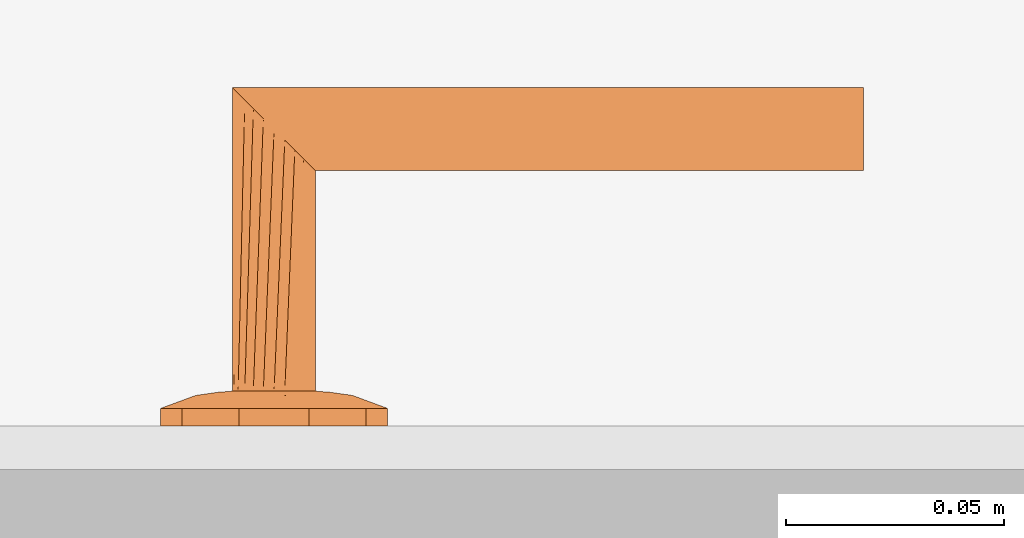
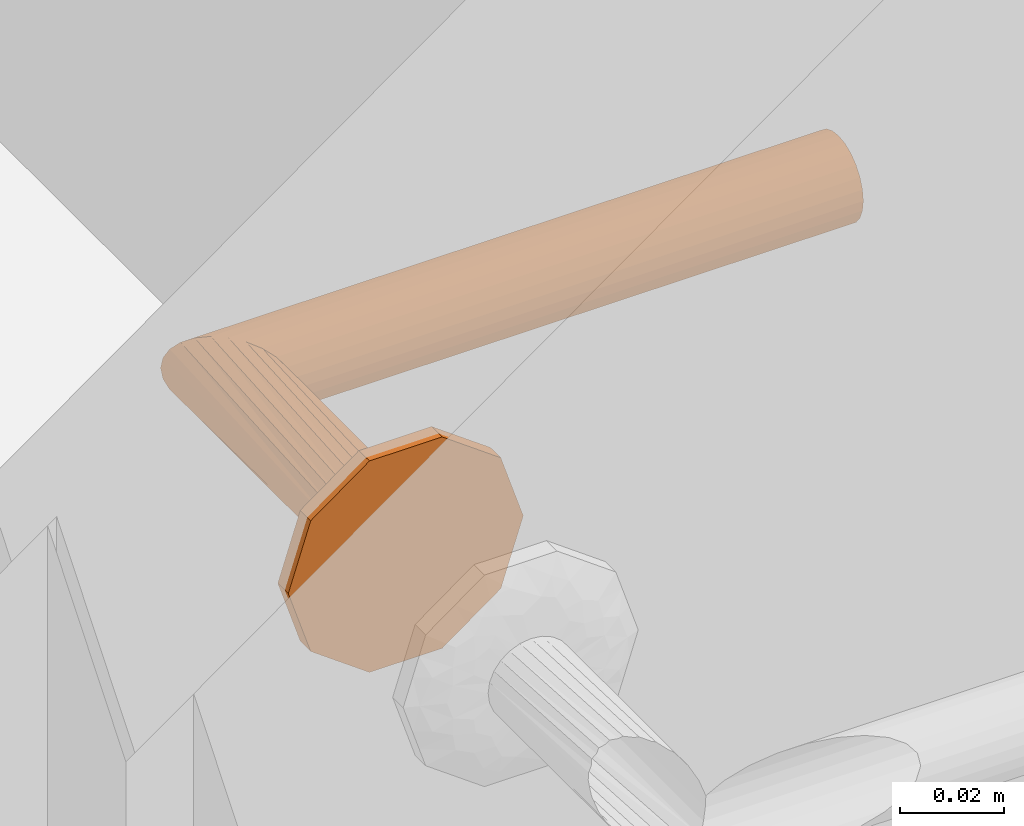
# One storey, part 55 of 68: 1 proxy.
"""IFC2X3 building model written with IfcOpenShell, lengths in millimetres."""

from ifc_helpers import new_model, entity, si_unit, converted_unit, direction, frame, origin, place, context, subcontext, project, spatial, faceted_brep, source, transform, mapped, material, type_object, type_shapes, element, save


model = new_model("IFC2X3")

# Units and contexts
model_context = context("Model", 3, precision=0.01, world=origin(), true_north=direction((6.123233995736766e-17, 1.0)))
plan_context = context("Plan", 3, precision=0.01, world=origin(), true_north=direction((6.123233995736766e-17, 1.0)))
body_context = subcontext(model_context, "Body", "Model", "MODEL_VIEW")
ifc_project = project(units=[si_unit("LENGTHUNIT", "METRE", prefix="MILLI"), converted_unit("PLANEANGLEUNIT", "DEGREE", entity("IfcPlaneAngleMeasure", 0.017453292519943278), si_unit("PLANEANGLEUNIT", "RADIAN"), dimensions=[0, 0, 0, 0, 0, 0, 0]), si_unit("AREAUNIT", "SQUARE_METRE")], contexts=[model_context, plan_context])

# Site, building, storey, space
site_placement = place(None, origin())
site = spatial("IfcSite", under=ifc_project, at=site_placement, Name="Default", CompositionType="ELEMENT")
building_placement = place(site_placement, origin())
building = spatial("IfcBuilding", under=site, at=building_placement, CompositionType="ELEMENT")
storey_placement = place(building_placement, frame((0.0, 0.0, 6295.0)))
storey = spatial("IfcBuildingStorey", under=building, at=storey_placement, Name="3K", CompositionType="ELEMENT", Elevation=6294.999999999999)
space_placement = place(storey_placement, origin())
space = spatial("IfcSpace", under=storey, at=space_placement, Name="3-6.3", CompositionType="ELEMENT", InteriorOrExteriorSpace="INTERNAL")

# Proxy
ifc_material = material(Name="<Unnamed>")
building_element_proxy_type = type_object("IfcBuildingElementProxyType", Name="Door-handle_Lever_ABLOY_INOXI_3-19ss-002_RT:Default", PredefinedType="NOTDEFINED", material=ifc_material)
shared_shape = source(origin(), body_context, "Body", "Brep", [
    faceted_brep([(0.0, 0.0, 0.0), (21.034441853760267, -15.282416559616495, 0.0), (14.534441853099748, -20.00494299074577, 0.0), (8.034441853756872, -24.72746942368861, 0.0), (0.0, -24.72746942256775, 0.0), (23.51722092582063, -7.6412082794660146, 0.0), (26.0, 0.0, 0.0), (-8.034441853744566, -24.727469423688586, 0.0), (-14.534441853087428, -20.00494299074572, 0.0), (-21.03444185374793, -15.282416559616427, 0.0), (-23.517220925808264, -7.641208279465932, 0.0), (-26.0, 0.0, 0.0), (-23.517220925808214, 7.641208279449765, 0.0), (23.517220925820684, 7.641208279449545, 0.0), (21.034441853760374, 15.282416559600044, 0.0), (14.53444185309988, 20.00494299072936, 0.0), (8.034441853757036, 24.72746942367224, 0.0), (-21.034441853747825, 15.282416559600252, 0.0), (-14.53444185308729, 20.004942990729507, 0.0), (-8.0344418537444, 24.72746942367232, 0.0), (0.0, 24.72746942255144, 0.0), (0.0, 0.0, 8.0), (4.7500000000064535, -8.227241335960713, 8.0), (5.937500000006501, -6.170431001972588, 8.0), (7.125000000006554, -4.113620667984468, 8.0), (8.312500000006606, -2.0568103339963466, 8.0), (9.500000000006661, 0.0, 8.0), (8.312500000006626, 2.056810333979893, 8.0), (2.3750000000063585, -8.227241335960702, 8.0), (0.0, -8.227241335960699, 8.0), (-2.3749999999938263, -8.227241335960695, 8.0), (-4.749999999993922, -8.227241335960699, 8.0), (-5.937499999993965, -6.170431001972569, 8.0), (-7.124999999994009, -4.113620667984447, 8.0), (-8.312499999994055, -2.056810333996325, 8.0), (-9.499999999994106, 0.0, 8.0), (7.125000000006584, 4.113620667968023, 8.0), (5.937500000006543, 6.170431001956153, 8.0), (4.750000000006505, 8.227241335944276, 8.0), (2.3750000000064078, 8.22724133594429, 8.0), (-8.31249999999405, 2.0568103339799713, 8.0), (-7.12499999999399, 4.113620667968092, 8.0), (-5.9374999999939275, 6.170431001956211, 8.0), (-4.74999999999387, 8.227241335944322, 8.0), (0.0, 8.227241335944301, 8.0), (-2.374999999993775, 8.227241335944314, 8.0), (-22.488765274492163, -10.806469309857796, 4.030771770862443), (-16.663919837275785, -7.932665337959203, 6.877259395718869), (-20.643071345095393, -6.292822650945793, 5.929480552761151), (-12.50457926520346, -5.179566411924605, 7.774932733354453), (-16.764060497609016, -3.820257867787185, 7.1747985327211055), (-9.071726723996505, -10.311606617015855, 7.7520782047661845), (-11.963426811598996, -8.625290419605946, 7.618343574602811), (-11.979136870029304, -13.678312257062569, 6.945778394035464), (5.7585542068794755, -20.96753300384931, 5.871476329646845), (0.0, -24.72746942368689, 4.030771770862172), (8.03444185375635, -24.727469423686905, 4.030771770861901), (16.66391982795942, -7.932665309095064, 6.877259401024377), (22.488765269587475, -10.806469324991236, 4.03077177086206), (20.64307133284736, -6.29282258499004, 5.929480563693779), (14.534441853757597, -20.004942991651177, 4.030771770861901), (9.499431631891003, -18.64368355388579, 6.154325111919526), (-15.783149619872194, -11.991003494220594, 6.50080018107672), (-21.034441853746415, -15.282416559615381, 4.030771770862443), (-14.53444185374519, -20.00494299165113, 4.030771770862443), (-23.012042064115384, 0.0, 5.135401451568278), (-23.943088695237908, -6.330522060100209, 4.030771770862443), (11.96342678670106, -8.62529049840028, 7.618343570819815), (12.504579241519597, -5.179566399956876, 7.774932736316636), (16.764060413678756, -3.8202578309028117, 7.17479855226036), (15.783149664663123, -11.991003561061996, 6.50080015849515), (17.985351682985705, 0.0, 6.993737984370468), (23.012042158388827, 0.0, 5.135401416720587), (8.661516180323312, -10.478936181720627, 7.768126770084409), (-8.03444185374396, -24.727469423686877, 4.030771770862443), (-3.3573143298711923, -21.197247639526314, 5.971427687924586), (-9.941915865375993, -17.061976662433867, 6.522757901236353), (-5.973257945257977, -16.430139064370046, 7.110979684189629), (-7.711266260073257, -12.760344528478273, 7.594456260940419), (11.979136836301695, -13.678312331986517, 6.945778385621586), (7.511307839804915, -13.358932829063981, 7.529187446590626), (5.953298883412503, -16.50608604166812, 7.096344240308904), (-1.5654593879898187, -15.307443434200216, 7.519134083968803), (-7.784980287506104, -20.476295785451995, 5.812837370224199), (2.8135289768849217, -17.76392260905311, 6.993737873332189), (-17.98535168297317, 0.0, 6.993737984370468), (-26.0, 0.0, 4.030771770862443), (-23.51722092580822, -7.641208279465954, 4.030771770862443), (23.943088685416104, -6.33052209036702, 4.030771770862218), (24.308823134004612, -5.204907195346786, 4.030771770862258), (26.0, 0.0, 4.030771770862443), (21.03444185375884, -15.282416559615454, 4.030771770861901), (22.617646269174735, -10.40981439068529, 4.030771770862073), (22.488765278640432, 10.806469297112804, 4.030771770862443), (16.66391984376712, 7.932665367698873, 6.877259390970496), (20.643071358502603, 6.292822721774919, 5.929480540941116), (12.504579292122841, 5.179566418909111, 7.774932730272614), (16.764060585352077, 3.8202579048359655, 7.174798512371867), (9.07172672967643, 10.31160659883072, 7.752078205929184), (11.963426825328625, 8.62529034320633, 7.618343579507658), (11.979136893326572, 13.67831220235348, 6.9457784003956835), (-5.758554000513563, 20.96753314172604, 5.8714763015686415), (0.0, 24.72746942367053, 4.030771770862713), (-8.03444185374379, 24.72746942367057, 4.030771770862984), (-16.663919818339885, 7.932665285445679, 6.877259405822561), (-22.48876526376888, 10.806469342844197, 4.030771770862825), (-20.643071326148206, 6.2928225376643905, 5.929480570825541), (-14.534441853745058, 20.004942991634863, 4.030771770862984), (-9.499431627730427, 18.643683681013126, 6.154325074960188), (15.783149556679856, 11.991003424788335, 6.5008002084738), (21.03444185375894, 15.282416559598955, 4.030771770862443), (14.534441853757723, 20.004942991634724, 4.030771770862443), (23.943088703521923, 6.330522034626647, 4.030771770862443), (-11.96342675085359, 8.625290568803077, 7.618343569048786), (-12.504579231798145, 5.179566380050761, 7.77493273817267), (-16.764060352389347, 3.820257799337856, 7.174798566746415), (-15.78314967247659, 11.991003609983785, 6.500800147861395), (-8.661516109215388, 10.478936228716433, 7.768126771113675), (8.034441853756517, 24.727469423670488, 4.030771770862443), (3.3573144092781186, 21.197247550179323, 5.971427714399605), (9.941915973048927, 17.061976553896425, 6.522757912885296), (5.9732581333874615, 16.430139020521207, 7.110979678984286), (7.711266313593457, 12.760344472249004, 7.5944562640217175), (-11.979136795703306, 13.678312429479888, 6.945778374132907), (-7.511307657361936, 13.358932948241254, 7.5291874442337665), (-5.9532988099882, 16.50608628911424, 7.096344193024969), (1.5654596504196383, 15.3074431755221, 7.519134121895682), (7.784980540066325, 20.476295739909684, 5.812837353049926), (-2.81352881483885, 17.76392263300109, 6.993737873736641), (23.51722092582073, 7.6412082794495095, 4.030771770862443), (-23.94308867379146, 6.330522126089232, 4.030771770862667), (-24.308823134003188, 5.20490719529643, 4.030771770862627), (-21.034441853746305, 15.282416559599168, 4.030771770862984), (-22.617646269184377, 10.409814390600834, 4.0307717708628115)], [[[0, 1, 2]], [[0, 2, 3]], [[0, 3, 4]], [[0, 5, 1]], [[0, 6, 5]], [[0, 4, 7]], [[0, 7, 8]], [[0, 8, 9]], [[0, 9, 10]], [[0, 10, 11]], [[0, 11, 12]], [[0, 13, 6]], [[0, 14, 13]], [[0, 15, 14]], [[0, 16, 15]], [[0, 12, 17]], [[0, 17, 18]], [[0, 18, 19]], [[0, 19, 20]], [[0, 20, 16]], [[21, 22, 23]], [[21, 23, 24]], [[21, 24, 25]], [[21, 25, 26]], [[21, 26, 27]], [[21, 28, 22]], [[21, 29, 28]], [[21, 30, 29]], [[21, 31, 30]], [[21, 32, 31]], [[21, 33, 32]], [[21, 34, 33]], [[21, 35, 34]], [[21, 27, 36]], [[21, 36, 37]], [[21, 37, 38]], [[21, 38, 39]], [[21, 40, 35]], [[21, 41, 40]], [[21, 42, 41]], [[21, 43, 42]], [[21, 39, 44]], [[21, 44, 45]], [[21, 45, 43]], [[46, 47, 48]], [[47, 49, 50]], [[49, 33, 34]], [[51, 52, 53]], [[49, 52, 33]], [[48, 47, 50]], [[54, 55, 56]], [[57, 58, 59]], [[56, 60, 61]], [[62, 63, 64]], [[65, 66, 48]], [[67, 57, 68]], [[68, 69, 25]], [[57, 67, 70]], [[69, 26, 25]], [[62, 53, 52]], [[71, 69, 72]], [[67, 23, 73]], [[74, 55, 75]], [[76, 77, 78]], [[79, 60, 70]], [[69, 59, 72]], [[80, 81, 61]], [[77, 30, 78]], [[82, 30, 77]], [[28, 80, 22]], [[77, 83, 75]], [[75, 82, 77]], [[55, 84, 75]], [[85, 50, 35]], [[24, 68, 25]], [[82, 84, 29]], [[84, 82, 75]], [[31, 78, 30]], [[82, 29, 30]], [[34, 35, 50]], [[52, 49, 47]], [[62, 52, 47]], [[34, 50, 49]], [[53, 78, 51]], [[32, 33, 52]], [[85, 65, 50]], [[66, 65, 86]], [[67, 68, 24]], [[77, 76, 83]], [[65, 48, 50]], [[63, 62, 46]], [[48, 66, 87, 46]], [[62, 47, 46]], [[69, 68, 57]], [[80, 73, 22]], [[70, 67, 79]], [[67, 24, 23]], [[72, 88, 89, 90]], [[69, 71, 26]], [[59, 69, 57]], [[61, 60, 79]], [[62, 64, 53]], [[91, 58, 70]], [[72, 59, 88]], [[57, 70, 58]], [[59, 58, 92]], [[80, 61, 79]], [[91, 70, 60]], [[61, 81, 54]], [[73, 80, 79]], [[28, 84, 81]], [[67, 73, 79]], [[29, 84, 28]], [[22, 73, 23]], [[51, 31, 32]], [[76, 78, 53]], [[53, 64, 76]], [[83, 64, 74]], [[64, 83, 76]], [[75, 83, 74]], [[31, 51, 78]], [[52, 51, 32]], [[28, 81, 80]], [[54, 81, 84]], [[55, 54, 84]], [[61, 54, 56]], [[93, 94, 95]], [[94, 96, 97]], [[96, 36, 27]], [[98, 99, 100]], [[96, 99, 36]], [[95, 94, 97]], [[101, 102, 103]], [[104, 105, 106]], [[103, 107, 108]], [[109, 110, 111]], [[72, 112, 95]], [[113, 104, 114]], [[114, 115, 40]], [[104, 113, 116]], [[115, 35, 40]], [[109, 100, 99]], [[85, 115, 65]], [[113, 42, 117]], [[118, 102, 119]], [[120, 121, 122]], [[123, 107, 116]], [[115, 106, 65]], [[124, 125, 108]], [[121, 39, 122]], [[126, 39, 121]], [[45, 124, 43]], [[121, 127, 119]], [[119, 126, 121]], [[102, 128, 119]], [[71, 97, 26]], [[41, 114, 40]], [[126, 128, 44]], [[128, 126, 119]], [[38, 122, 39]], [[126, 44, 39]], [[27, 26, 97]], [[99, 96, 94]], [[109, 99, 94]], [[27, 97, 96]], [[100, 122, 98]], [[37, 36, 99]], [[71, 72, 97]], [[112, 72, 90]], [[113, 114, 41]], [[121, 120, 127]], [[72, 95, 97]], [[110, 109, 93]], [[95, 112, 129, 93]], [[109, 94, 93]], [[115, 114, 104]], [[124, 117, 43]], [[116, 113, 123]], [[113, 41, 42]], [[65, 130, 131, 86]], [[115, 85, 35]], [[106, 115, 104]], [[108, 107, 123]], [[109, 111, 100]], [[132, 105, 116]], [[65, 106, 130]], [[104, 116, 105]], [[106, 105, 133]], [[124, 108, 123]], [[132, 116, 107]], [[108, 125, 101]], [[117, 124, 123]], [[45, 128, 125]], [[113, 117, 123]], [[44, 128, 45]], [[43, 117, 42]], [[98, 38, 37]], [[120, 122, 100]], [[100, 111, 120]], [[127, 111, 118]], [[111, 127, 120]], [[119, 127, 118]], [[38, 98, 122]], [[99, 98, 37]], [[45, 125, 124]], [[101, 125, 128]], [[102, 101, 128]], [[108, 101, 103]], [[7, 74, 64, 63, 9, 8]], [[10, 9, 63, 46, 87, 66, 86, 11]], [[6, 90, 89, 88, 92, 1, 5]], [[1, 58, 91]], [[74, 7, 4, 3, 56, 55]], [[60, 56, 3, 2, 1, 91]], [[1, 92, 58]], [[14, 110, 93, 129, 112, 90, 6, 13]], [[111, 110, 14, 15, 16, 118]], [[11, 86, 131, 130, 133, 17, 12]], [[17, 105, 132]], [[118, 16, 20, 19, 103, 102]], [[107, 103, 19, 18, 17, 132]], [[17, 133, 105]], [[59, 92, 88]], [[106, 133, 130]]]),
    faceted_brep([(4.7499999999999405, -8.22724133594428, 8.0), (2.4587809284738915, -9.176295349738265, 8.0), (0.0, -9.499999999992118, 8.0), (-2.4587809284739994, -9.176295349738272, 8.0), (-4.7500000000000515, -8.227241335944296, 8.0), (-6.717514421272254, -6.717514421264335, 8.0), (-8.227241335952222, -4.74999999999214, 8.0), (-9.176295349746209, -2.4587809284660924, 8.0), (-9.500000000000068, 0.0, 8.0), (-9.176295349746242, 2.458780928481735, 8.0), (-8.227241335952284, 4.750000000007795, 8.0), (-6.717514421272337, 6.717514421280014, 8.0), (-4.750000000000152, 8.227241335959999, 8.0), (-2.4587809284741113, 9.176295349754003, 8.0), (0.0, 9.500000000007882, 8.0), (2.4587809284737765, 9.176295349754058, 8.0), (4.7499999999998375, 8.227241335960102, 8.0), (6.717514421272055, 6.717514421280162, 8.0), (8.22724133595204, 4.75000000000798, 8.0), (9.17629534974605, 2.458780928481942, 8.0), (9.499999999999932, 0.0, 8.0), (9.17629534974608, -2.458780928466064, 8.0), (8.227241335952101, -4.749999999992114, 8.0), (6.717514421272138, -6.7175144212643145, 8.0), (-8.227241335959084, 4.7499999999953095, 59.772758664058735), (-6.717514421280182, 6.7175144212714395, 61.282485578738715), (-9.176295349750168, 2.458780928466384, 58.82370465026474), (-4.750000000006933, 8.227241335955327, 63.25000000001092), (-2.4587809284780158, 9.176295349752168, 65.54121907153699), (-9.500000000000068, 0.0, 58.50000000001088), (0.0, 9.50000000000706, 68.0), (4.750000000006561, 8.227241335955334, 72.75000000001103), (2.4587809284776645, 9.17629534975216, 70.45878092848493), (6.717514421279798, 6.7175144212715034, 74.71751442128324), (8.22724133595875, 4.749999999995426, 76.22724133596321), (9.17629534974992, 2.458780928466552, 77.17629534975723), (9.499999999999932, 0.0, 77.50000000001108), (9.176295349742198, -2.4587809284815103, 77.1762953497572), (8.227241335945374, -4.750000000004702, 76.22724133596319), (6.7175144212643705, -6.717514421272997, 74.7175144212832), (4.749999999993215, -8.227241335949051, 72.75000000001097), (2.4587809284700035, -9.17629534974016, 70.45878092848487), (0.0, -9.49999999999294, 68.0), (-2.4587809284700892, -9.176295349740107, 65.54121907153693), (-4.749999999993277, -8.227241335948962, 63.250000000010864), (-6.717514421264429, -6.717514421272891, 61.282485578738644), (-9.176295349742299, -2.458780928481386, 58.8237046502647), (-8.227241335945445, -4.750000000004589, 59.77275866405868), (-135.0, -9.176295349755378, 70.4587809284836), (-135.0, -8.227241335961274, 72.75000000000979), (-135.0, -6.717514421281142, 74.71751442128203), (-135.0, -4.750000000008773, 76.22724133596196), (-135.0, -2.4587809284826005, 77.17629534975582), (-135.0, 0.0, 77.5000000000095), (-135.0, 2.4587809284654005, 77.17629534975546), (-135.0, 4.749999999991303, 76.22724133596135), (-135.0, 6.717514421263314, 74.71751442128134), (-135.0, 8.227241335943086, 72.75000000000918), (-135.0, 9.17629534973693, 70.45878092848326), (-135.0, 9.499999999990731, 68.0), (-135.0, 9.17629534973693, 65.54121907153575), (-135.0, 8.227241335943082, 63.250000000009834), (-135.0, 6.717514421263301, 61.28248557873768), (-135.0, 4.749999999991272, 59.772758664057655), (-135.0, 2.458780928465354, 58.823704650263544), (-135.0, 0.0, 58.50000000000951), (-135.0, -2.458780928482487, 58.82370465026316), (-135.0, -4.750000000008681, 59.772758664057), (-135.0, -6.7175144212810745, 61.28248557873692), (-135.0, -8.227241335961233, 63.25000000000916), (-135.0, -9.176295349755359, 65.54121907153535), (-135.0, -9.500000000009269, 68.0)], [[[0, 1, 2, 3, 4, 5, 6, 7, 8, 9, 10, 11, 12, 13, 14, 15, 16, 17, 18, 19, 20, 21, 22, 23]], [[24, 25, 11, 10]], [[26, 24, 10, 9]], [[14, 27, 28]], [[13, 27, 14]], [[25, 27, 13]], [[29, 26, 9, 8]], [[12, 11, 25]], [[25, 13, 12]], [[28, 30, 15]], [[31, 17, 32]], [[33, 18, 31]], [[19, 34, 35]], [[33, 34, 19]], [[20, 19, 35, 36]], [[16, 15, 30]], [[14, 28, 15]], [[19, 18, 33]], [[17, 31, 18]], [[17, 16, 32]], [[30, 32, 16]], [[20, 36, 37, 21]], [[38, 21, 37]], [[22, 39, 40]], [[38, 39, 21]], [[23, 40, 41]], [[39, 22, 21]], [[1, 42, 43]], [[42, 1, 0]], [[23, 41, 0]], [[23, 22, 40]], [[41, 42, 0]], [[44, 45, 3]], [[43, 44, 2]], [[46, 29, 8, 7]], [[47, 46, 7, 6]], [[45, 47, 6, 5]], [[45, 4, 3]], [[3, 2, 44]], [[5, 4, 45]], [[43, 2, 1]], [[48, 49, 50, 51, 52, 53, 54, 55, 56, 57, 58, 59, 60, 61, 62, 63, 64, 65, 66, 67, 68, 69, 70, 71]], [[64, 63, 24, 26]], [[65, 64, 26, 29]], [[61, 60, 28, 27]], [[62, 61, 27, 25]], [[63, 62, 25, 24]], [[59, 30, 28, 60]], [[57, 56, 33, 31]], [[58, 57, 31, 32]], [[54, 53, 36, 35]], [[55, 54, 35, 34]], [[56, 55, 34, 33]], [[32, 30, 59, 58]], [[52, 51, 38, 37]], [[53, 52, 37, 36]], [[49, 48, 41, 40]], [[50, 49, 40, 39]], [[51, 50, 39, 38]], [[42, 41, 48, 71]], [[69, 68, 45, 44]], [[70, 69, 44, 43]], [[66, 65, 29, 46]], [[67, 66, 46, 47]], [[68, 67, 47, 45]], [[42, 71, 70, 43]]]),
])
type_shapes(building_element_proxy_type, [shared_shape])
proxy_placement = place(space_placement, frame((5828.0, 11832.0, 1000.0), z_axis=(0.0, 1.0, 0.0), x_axis=(-1.0, 0.0, 0.0)))
element("IfcBuildingElementProxy", 1, at=proxy_placement, inside=space, type_object=building_element_proxy_type, material=ifc_material, Name="Door-handle_Lever_ABLOY_INOXI_3-19ss-002_RT:Default", ObjectType="Door-handle_Lever_ABLOY_INOXI_3-19ss-002_RT:Default", context=body_context, shape_type="MappedRepresentation", body=[
    mapped(shared_shape, transform((0.0, 0.0, 0.0), scale=1.0)),
])

save(model, "model.ifc")
